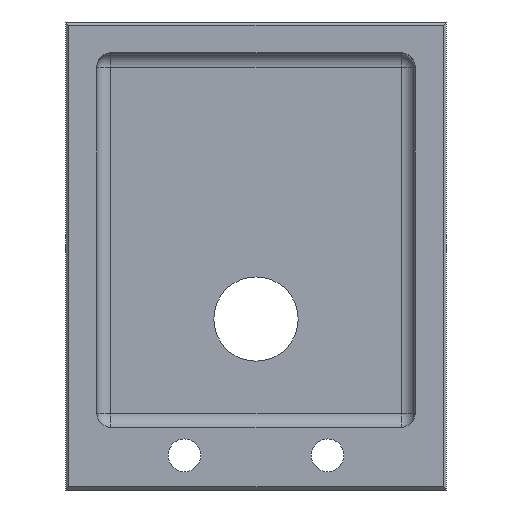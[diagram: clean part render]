
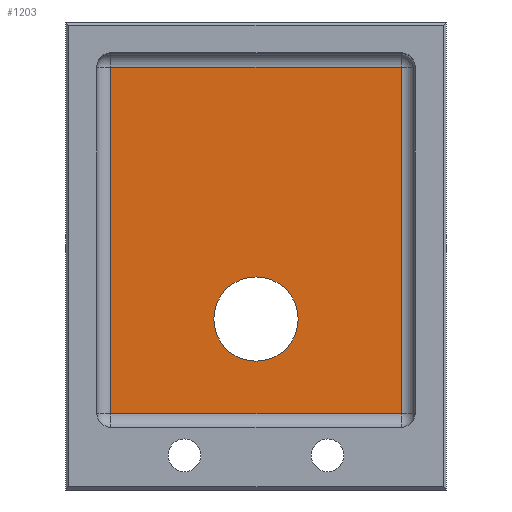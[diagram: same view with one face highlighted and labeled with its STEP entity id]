
A CAD part, top view. The second image highlights one B-rep face of the part: STEP entity #1203.
In plain terms, the highlighted planar face has unit normal (0, 0, 1).
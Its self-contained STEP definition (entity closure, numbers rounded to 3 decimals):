
#1079=CARTESIAN_POINT('Vertex',(45.,-84.,-196.4)) ;
#1082=CARTESIAN_POINT('Axis2P3D Location',(0.,-84.,-196.4)) ;
#1086=CARTESIAN_POINT('Vertex',(-45.,-84.,-196.4)) ;
#1101=CARTESIAN_POINT('Axis2P3D Location',(0.,-84.,-196.4)) ;
#1160=CARTESIAN_POINT('Axis2P3D Location',(0.,0.,-196.4)) ;
#1165=CARTESIAN_POINT('Line Origine',(0.,-185.,-196.4)) ;
#1169=CARTESIAN_POINT('Vertex',(155.,-185.,-196.4)) ;
#1171=CARTESIAN_POINT('Vertex',(-155.,-185.,-196.4)) ;
#1174=CARTESIAN_POINT('Line Origine',(155.,0.,-196.4)) ;
#1178=CARTESIAN_POINT('Vertex',(155.,185.,-196.4)) ;
#1181=CARTESIAN_POINT('Line Origine',(0.,185.,-196.4)) ;
#1185=CARTESIAN_POINT('Vertex',(-155.,185.,-196.4)) ;
#1188=CARTESIAN_POINT('Line Origine',(-155.,0.,-196.4)) ;
#1083=DIRECTION('Axis2P3D Direction',(0.,0.,1.)) ;
#1102=DIRECTION('Axis2P3D Direction',(0.,0.,1.)) ;
#1161=DIRECTION('Axis2P3D Direction',(0.,0.,1.)) ;
#1162=DIRECTION('Axis2P3D XDirection',(1.,0.,0.)) ;
#1166=DIRECTION('Vector Direction',(1.,0.,0.)) ;
#1175=DIRECTION('Vector Direction',(0.,1.,0.)) ;
#1182=DIRECTION('Vector Direction',(1.,0.,0.)) ;
#1189=DIRECTION('Vector Direction',(0.,1.,0.)) ;
#1084=AXIS2_PLACEMENT_3D('Circle Axis2P3D',#1082,#1083,$) ;
#1103=AXIS2_PLACEMENT_3D('Circle Axis2P3D',#1101,#1102,$) ;
#1163=AXIS2_PLACEMENT_3D('Plane Axis2P3D',#1160,#1161,#1162) ;
#1194=ORIENTED_EDGE('',*,*,#1173,.F.) ;
#1195=ORIENTED_EDGE('',*,*,#1180,.F.) ;
#1196=ORIENTED_EDGE('',*,*,#1187,.F.) ;
#1197=ORIENTED_EDGE('',*,*,#1192,.F.) ;
#1200=ORIENTED_EDGE('',*,*,#1088,.F.) ;
#1201=ORIENTED_EDGE('',*,*,#1105,.F.) ;
#1202=FACE_BOUND('',#1199,.T.) ;
#1167=VECTOR('Line Direction',#1166,1.) ;
#1176=VECTOR('Line Direction',#1175,1.) ;
#1183=VECTOR('Line Direction',#1182,1.) ;
#1190=VECTOR('Line Direction',#1189,1.) ;
#1203=ADVANCED_FACE('Vasca-CTP',(#1198,#1202),#1164,.T.) ;
#1085=CIRCLE('generated circle',#1084,45.) ;
#1104=CIRCLE('generated circle',#1103,45.) ;
#1088=EDGE_CURVE('',#1080,#1087,#1085,.T.) ;
#1105=EDGE_CURVE('',#1087,#1080,#1104,.T.) ;
#1173=EDGE_CURVE('',#1170,#1172,#1168,.F.) ;
#1180=EDGE_CURVE('',#1179,#1170,#1177,.F.) ;
#1187=EDGE_CURVE('',#1186,#1179,#1184,.T.) ;
#1192=EDGE_CURVE('',#1172,#1186,#1191,.T.) ;
#1193=EDGE_LOOP('',(#1194,#1195,#1196,#1197)) ;
#1199=EDGE_LOOP('',(#1200,#1201)) ;
#1198=FACE_OUTER_BOUND('',#1193,.T.) ;
#1168=LINE('Line',#1165,#1167) ;
#1177=LINE('Line',#1174,#1176) ;
#1184=LINE('Line',#1181,#1183) ;
#1191=LINE('Line',#1188,#1190) ;
#1164=PLANE('',#1163) ;
#1080=VERTEX_POINT('',#1079) ;
#1087=VERTEX_POINT('',#1086) ;
#1170=VERTEX_POINT('',#1169) ;
#1172=VERTEX_POINT('',#1171) ;
#1179=VERTEX_POINT('',#1178) ;
#1186=VERTEX_POINT('',#1185) ;
